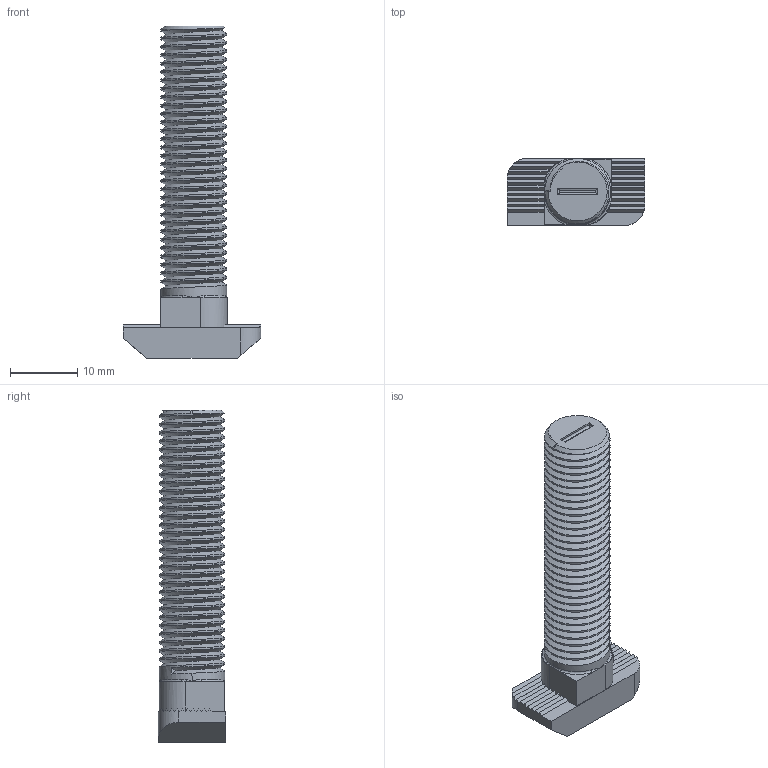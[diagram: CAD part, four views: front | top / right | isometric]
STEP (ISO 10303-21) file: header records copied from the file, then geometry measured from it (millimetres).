
FILE_DESCRIPTION (( 'STEP AP214' ), '1' );
FILE_NAME ('5170.STEP', '2017-08-09T08:00:24', ( '' ), ( '' ), 'SwSTEP 2.0', 'SolidWorks 2014', '' );
FILE_SCHEMA (( 'AUTOMOTIVE_DESIGN' ));
Length unit declared in the file: millimetre
Products named in the file (2): 5170
Bounding box: 20.5 x 10 x 49.5 mm (x, y, z)
Volume: 3926.5 mm3; surface area: 2789.4 mm2
Topology: 1 solids, 1 shells, 151 faces, 433 edges, 282 vertices
Faces by surface type: cylinder 71, plane 63, bspline 10, torus 4, cone 3
Entity records: 9055 total; most frequent: CARTESIAN_POINT 5623, ORIENTED_EDGE 856, DIRECTION 561, EDGE_CURVE 428, VERTEX_POINT 280, VECTOR 217, LINE 217, AXIS2_PLACEMENT_3D 172
